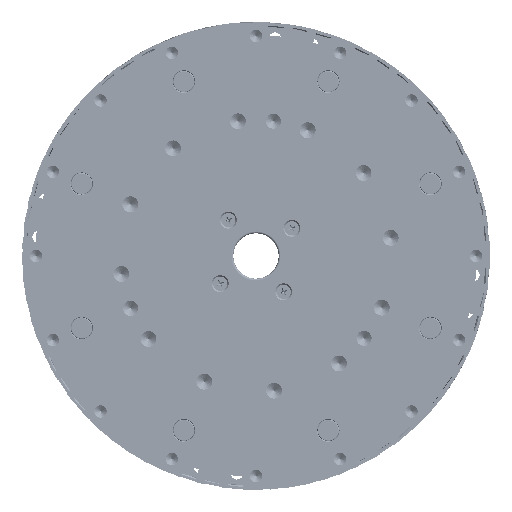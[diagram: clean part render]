
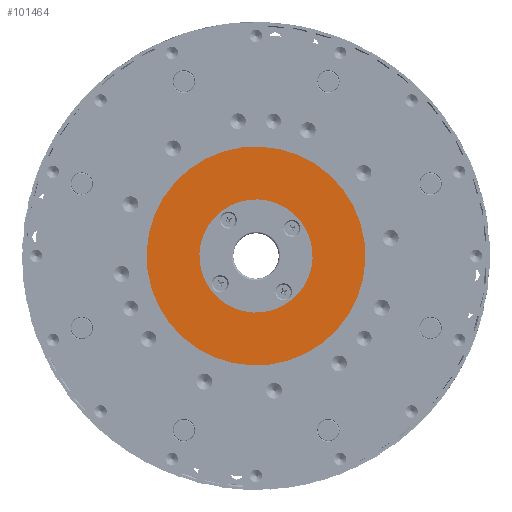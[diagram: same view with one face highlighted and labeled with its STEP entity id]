
A CAD part, front view. The second image highlights one B-rep face of the part: STEP entity #101464.
In plain terms, the highlighted planar face has unit normal (0, -1, 0).
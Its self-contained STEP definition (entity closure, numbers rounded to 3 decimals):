
#12066 = ORIENTED_EDGE ( 'NONE', *, *, #208730, .F. ) ;
#16340 = PLANE ( 'NONE',  #123437 ) ;
#24037 = CIRCLE ( 'NONE', #209568, 15. ) ;
#34478 = AXIS2_PLACEMENT_3D ( 'NONE', #128970, #68170, #191009 ) ;
#36297 = EDGE_CURVE ( 'NONE', #223178, #155284, #104251, .T. ) ;
#36706 = EDGE_CURVE ( 'NONE', #91869, #229507, #24037, .T. ) ;
#40077 = DIRECTION ( 'NONE',  ( 0., 0., -1. ) ) ;
#42080 = CARTESIAN_POINT ( 'NONE',  ( 0., 4.5, -15. ) ) ;
#58427 = CARTESIAN_POINT ( 'NONE',  ( 0., 4.5, 15. ) ) ;
#59168 = DIRECTION ( 'NONE',  ( 0., 0., -1. ) ) ;
#68170 = DIRECTION ( 'NONE',  ( 0., 1., 0. ) ) ;
#76585 = CIRCLE ( 'NONE', #224173, 15. ) ;
#89910 = CARTESIAN_POINT ( 'NONE',  ( 0., 4.5, -29. ) ) ;
#91440 = ORIENTED_EDGE ( 'NONE', *, *, #36297, .F. ) ;
#91869 = VERTEX_POINT ( 'NONE', #58427 ) ;
#97558 = CARTESIAN_POINT ( 'NONE',  ( 0., 4.5, 0. ) ) ;
#98263 = FACE_BOUND ( 'NONE', #237952, .T. ) ;
#101464 = ADVANCED_FACE ( 'NONE', ( #98263, #217093 ), #16340, .T. ) ;
#102192 = CARTESIAN_POINT ( 'NONE',  ( 0., 4.5, 0. ) ) ;
#104251 = CIRCLE ( 'NONE', #146500, 29. ) ;
#105060 = CARTESIAN_POINT ( 'NONE',  ( 0., 4.5, 0. ) ) ;
#121259 = CARTESIAN_POINT ( 'NONE',  ( 0., 4.5, 29. ) ) ;
#123437 = AXIS2_PLACEMENT_3D ( 'NONE', #102192, #177523, #259304 ) ;
#128970 = CARTESIAN_POINT ( 'NONE',  ( 0., 4.5, 0. ) ) ;
#137225 = DIRECTION ( 'NONE',  ( 0., 1., 0. ) ) ;
#146036 = DIRECTION ( 'NONE',  ( 0., -1., 0. ) ) ;
#146500 = AXIS2_PLACEMENT_3D ( 'NONE', #97558, #137225, #59168 ) ;
#155284 = VERTEX_POINT ( 'NONE', #89910 ) ;
#172692 = EDGE_LOOP ( 'NONE', ( #91440, #187956 ) ) ;
#177523 = DIRECTION ( 'NONE',  ( 0., -1., 0. ) ) ;
#186903 = DIRECTION ( 'NONE',  ( 0., 0., -1. ) ) ;
#187956 = ORIENTED_EDGE ( 'NONE', *, *, #213341, .F. ) ;
#191009 = DIRECTION ( 'NONE',  ( 0., 0., -1. ) ) ;
#208730 = EDGE_CURVE ( 'NONE', #229507, #91869, #76585, .T. ) ;
#209568 = AXIS2_PLACEMENT_3D ( 'NONE', #105060, #146036, #186903 ) ;
#213341 = EDGE_CURVE ( 'NONE', #155284, #223178, #253908, .T. ) ;
#217093 = FACE_OUTER_BOUND ( 'NONE', #172692, .T. ) ;
#223178 = VERTEX_POINT ( 'NONE', #121259 ) ;
#224173 = AXIS2_PLACEMENT_3D ( 'NONE', #240842, #224930, #40077 ) ;
#224930 = DIRECTION ( 'NONE',  ( 0., -1., 0. ) ) ;
#229507 = VERTEX_POINT ( 'NONE', #42080 ) ;
#237197 = ORIENTED_EDGE ( 'NONE', *, *, #36706, .F. ) ;
#237952 = EDGE_LOOP ( 'NONE', ( #12066, #237197 ) ) ;
#240842 = CARTESIAN_POINT ( 'NONE',  ( 0., 4.5, 0. ) ) ;
#253908 = CIRCLE ( 'NONE', #34478, 29. ) ;
#259304 = DIRECTION ( 'NONE',  ( 0., 0., -1. ) ) ;
